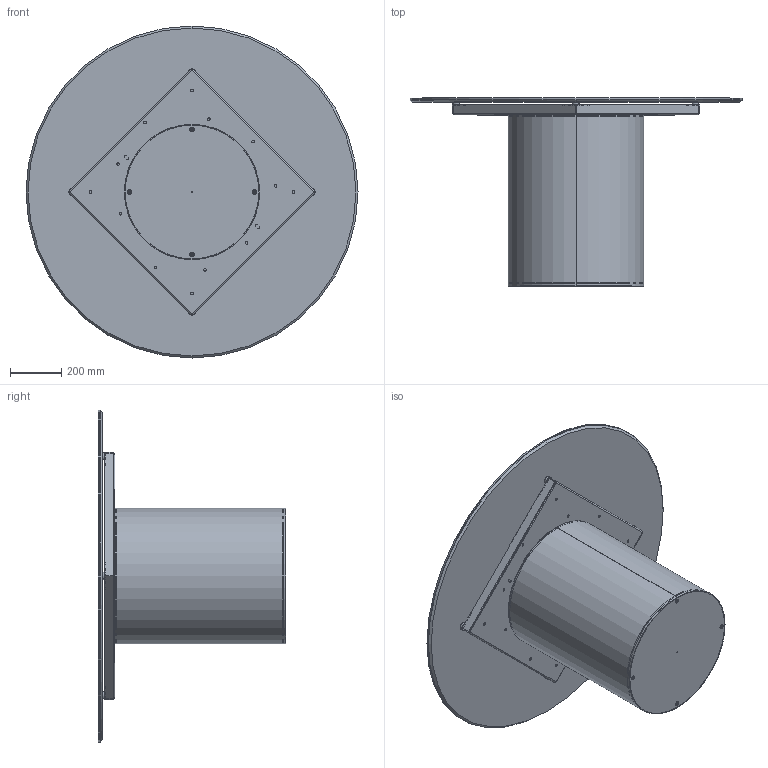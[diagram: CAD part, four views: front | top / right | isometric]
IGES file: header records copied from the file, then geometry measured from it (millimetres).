
Start section: SolidWorks IGES file using analytic representation for surfaces
Global section: file name: Y:\eforma\TECNICO\SOLIDWORKS\E-FORMA\1-TAVOLI\CILINDRO\02 parts\CI05C.IGS; native system: SolidWorks 2022; preprocessor: SolidWorks 2022; author: eforma.tech; date: 240808.085823; units: millimetre
Bounding box: 1300 x 736 x 1300 mm (x, y, z)
Volume: 28428342.3 mm3; surface area: 9499585.6 mm2
Topology: 24 solids, 24 shells, 710 faces, 1792 edges, 1112 vertices
Faces by surface type: revolution 376, plane 334
